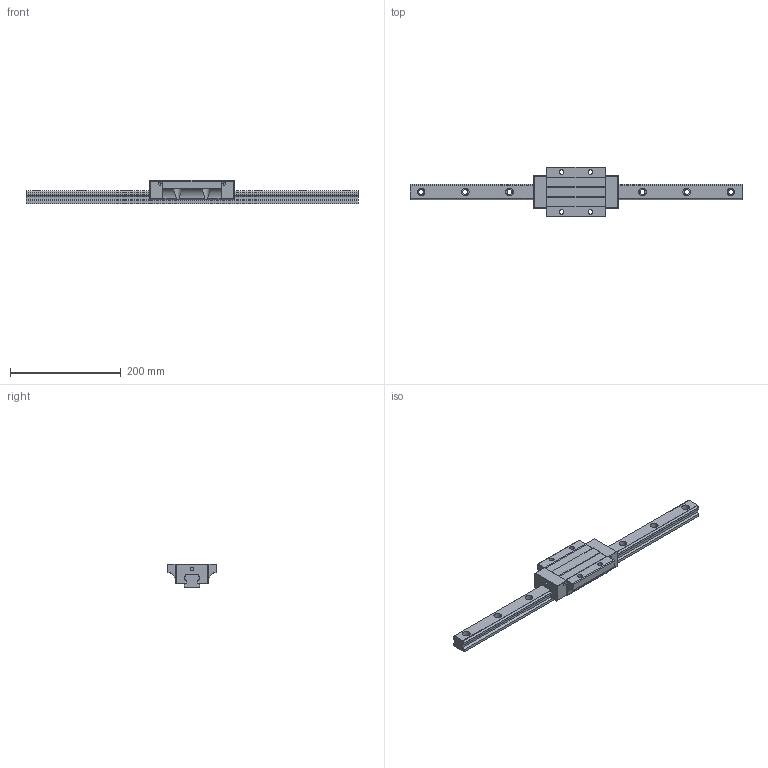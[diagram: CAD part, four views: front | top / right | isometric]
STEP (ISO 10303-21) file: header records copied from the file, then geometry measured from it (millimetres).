
FILE_DESCRIPTION (( 'STEP AP203' ), '1' );
FILE_NAME ('TRH30FE-WZ.STEP', '2024-05-09T01:39:31', ( '' ), ( '' ), 'SwSTEP 2.0', 'SolidWorks 2022', '' );
FILE_SCHEMA (( 'CONFIG_CONTROL_DESIGN' ));
Length unit declared in the file: millimetre
Products named in the file (1): TRH30FE-WZ
Bounding box: 600 x 90 x 42 mm (x, y, z)
Volume: 611534.7 mm3; surface area: 116129.7 mm2
Topology: 2 solids, 2 shells, 230 faces, 636 edges, 420 vertices
Faces by surface type: cylinder 124, plane 94, sphere 12
Entity records: 8158 total; most frequent: CARTESIAN_POINT 2131, ORIENTED_EDGE 1256, DIRECTION 1242, EDGE_CURVE 628, AXIS2_PLACEMENT_3D 446, VERTEX_POINT 416, LINE 350, VECTOR 350
